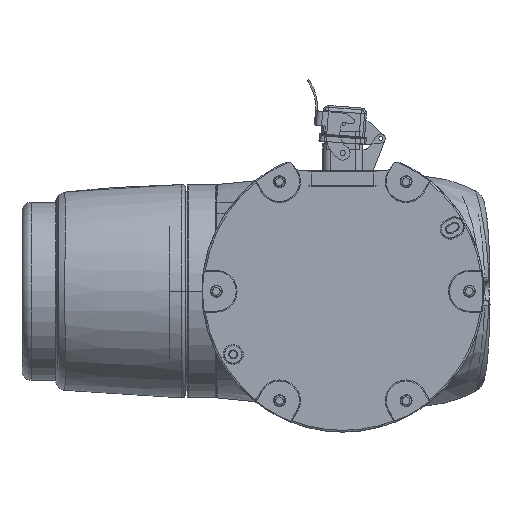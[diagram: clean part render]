
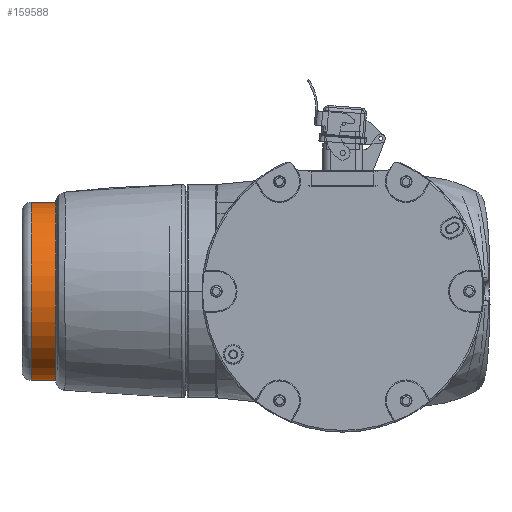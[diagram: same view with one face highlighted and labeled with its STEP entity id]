
A CAD part, front view. The second image highlights one B-rep face of the part: STEP entity #159588.
In plain terms, the highlighted cylindrical face has radius 49.25 mm (diameter 98.5 mm), a partial arc.
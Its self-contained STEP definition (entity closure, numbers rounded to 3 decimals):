
#4576 = VERTEX_POINT ( 'NONE', #201485 ) ;
#12515 = DIRECTION ( 'NONE',  ( -1., 0., 0. ) ) ;
#12565 = EDGE_CURVE ( 'NONE', #227650, #4576, #83398, .T. ) ;
#13739 = CARTESIAN_POINT ( 'NONE',  ( -20., 0., -49.25 ) ) ;
#15651 = EDGE_LOOP ( 'NONE', ( #166290, #161574, #16251, #210397 ) ) ;
#16251 = ORIENTED_EDGE ( 'NONE', *, *, #116232, .T. ) ;
#33579 = CARTESIAN_POINT ( 'NONE',  ( -20., 0., 49.25 ) ) ;
#44019 = CARTESIAN_POINT ( 'NONE',  ( -15., 0., 0. ) ) ;
#48955 = VECTOR ( 'NONE', #174175, 1000. ) ;
#57489 = LINE ( 'NONE', #13739, #262451 ) ;
#60863 = VERTEX_POINT ( 'NONE', #112635 ) ;
#70937 = DIRECTION ( 'NONE',  ( 0., 0., -1. ) ) ;
#82875 = CARTESIAN_POINT ( 'NONE',  ( -15., 0., -49.25 ) ) ;
#83398 = CIRCLE ( 'NONE', #125777, 49.25 ) ;
#96832 = CYLINDRICAL_SURFACE ( 'NONE', #133752, 49.25 ) ;
#112635 = CARTESIAN_POINT ( 'NONE',  ( -0.5, 0., 49.25 ) ) ;
#116232 = EDGE_CURVE ( 'NONE', #60863, #149918, #208857, .T. ) ;
#116708 = CARTESIAN_POINT ( 'NONE',  ( -20., 0., 0. ) ) ;
#125777 = AXIS2_PLACEMENT_3D ( 'NONE', #44019, #246940, #245618 ) ;
#132089 = CARTESIAN_POINT ( 'NONE',  ( -0.5, 0., -49.25 ) ) ;
#133752 = AXIS2_PLACEMENT_3D ( 'NONE', #116708, #225073, #205201 ) ;
#136610 = FACE_OUTER_BOUND ( 'NONE', #15651, .T. ) ;
#149918 = VERTEX_POINT ( 'NONE', #132089 ) ;
#159588 = ADVANCED_FACE ( 'NONE', ( #136610 ), #96832, .T. ) ;
#161574 = ORIENTED_EDGE ( 'NONE', *, *, #178390, .T. ) ;
#166290 = ORIENTED_EDGE ( 'NONE', *, *, #12565, .T. ) ;
#174175 = DIRECTION ( 'NONE',  ( 1., 0., 0. ) ) ;
#175560 = DIRECTION ( 'NONE',  ( 1., 0., 0. ) ) ;
#178390 = EDGE_CURVE ( 'NONE', #4576, #60863, #255069, .T. ) ;
#197315 = EDGE_CURVE ( 'NONE', #227650, #149918, #57489, .T. ) ;
#201485 = CARTESIAN_POINT ( 'NONE',  ( -15., 0., 49.25 ) ) ;
#205201 = DIRECTION ( 'NONE',  ( 0., 0., -1. ) ) ;
#208857 = CIRCLE ( 'NONE', #242702, 49.25 ) ;
#210397 = ORIENTED_EDGE ( 'NONE', *, *, #197315, .F. ) ;
#225073 = DIRECTION ( 'NONE',  ( 1., 0., 0. ) ) ;
#227650 = VERTEX_POINT ( 'NONE', #82875 ) ;
#234045 = CARTESIAN_POINT ( 'NONE',  ( -0.5, 0., 0. ) ) ;
#242702 = AXIS2_PLACEMENT_3D ( 'NONE', #234045, #12515, #70937 ) ;
#245618 = DIRECTION ( 'NONE',  ( 0., 0., -1. ) ) ;
#246940 = DIRECTION ( 'NONE',  ( 1., 0., 0. ) ) ;
#255069 = LINE ( 'NONE', #33579, #48955 ) ;
#262451 = VECTOR ( 'NONE', #175560, 1000. ) ;
